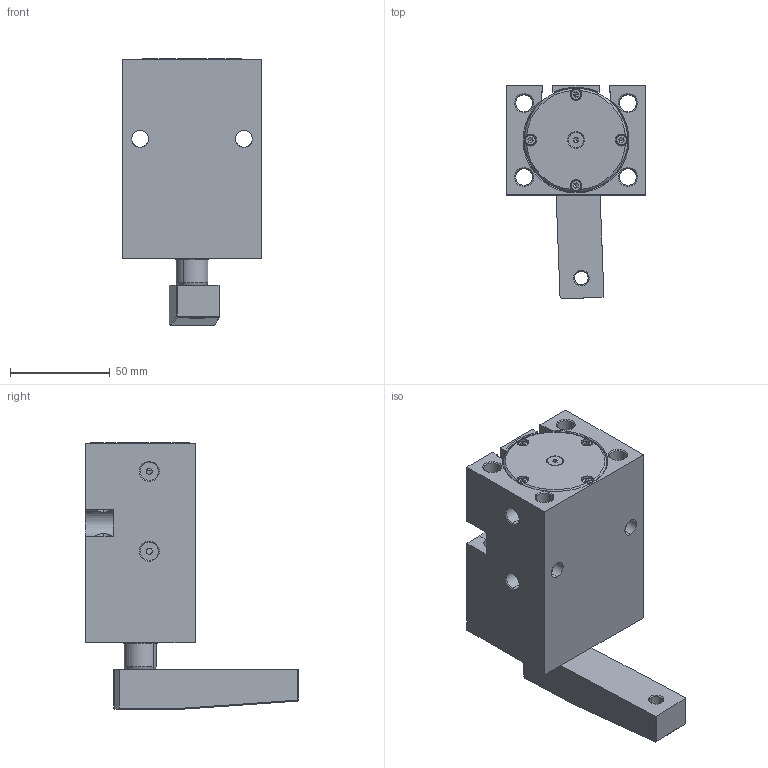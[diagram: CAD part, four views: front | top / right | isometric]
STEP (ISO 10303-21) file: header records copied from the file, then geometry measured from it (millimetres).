
FILE_DESCRIPTION (( 'STEP AP214' ), '1' );
FILE_NAME ('BGDK_40.STEP', '2018-12-10T08:27:48', ( '' ), ( '' ), 'SwSTEP 2.0', 'SolidWorks 2018', '' );
FILE_SCHEMA (( 'AUTOMOTIVE_DESIGN' ));
Length unit declared in the file: millimetre
Products named in the file (13): Q16_DISMÝL; bgdk_disli_ustpabuc; ARKA_KAPAK1; socket countersunk head screw_am_B18.3.5M - 4 x 0.7 x 16 Socket FCHS  -- 16N; socket head cap screw_am_B18.3.1M - 3 x 0.5 x 6 Hex SHCS -- 6NHX; BORU; m齥nat齭; K52-16; Q16-15_PAP_YUZUK; K54-40; BGDK_40; BÝLYALI_SOMUN; socket head cap screw_am_B18.3.1M - 8 x 1.25 x 12 Hex SHCS -- 12NHX
Assembly tree (15 placements, depth 2):
  BGDK_40
    BORU
    Q16_DISMÝL
    BÝLYALI_SOMUN
    ARKA_KAPAK1
    socket head cap screw_am_B18.3.1M - 3 x 0.5 x 6 Hex SHCS -- 6NHX  x4
    socket countersunk head screw_am_B18.3.5M - 4 x 0.7 x 16 Socket FCHS  -- 16N
    K54-40
    m齥nat齭
    Q16-15_PAP_YUZUK
    K52-16
    bgdk_disli_ustpabuc
    socket head cap screw_am_B18.3.1M - 8 x 1.25 x 12 Hex SHCS -- 12NHX
Bounding box: 70 x 106.84 x 133.27 mm (x, y, z)
Volume: 342355 mm3; surface area: 96217.3 mm2
Topology: 15 solids, 15 shells, 572 faces, 1319 edges, 798 vertices
Faces by surface type: cylinder 206, plane 190, cone 140, torus 20, bspline 16
Entity records: 16061 total; most frequent: CARTESIAN_POINT 3769, DIRECTION 2593, ORIENTED_EDGE 2262, EDGE_CURVE 1131, AXIS2_PLACEMENT_3D 1039, VERTEX_POINT 699, EDGE_LOOP 584, CIRCLE 546
